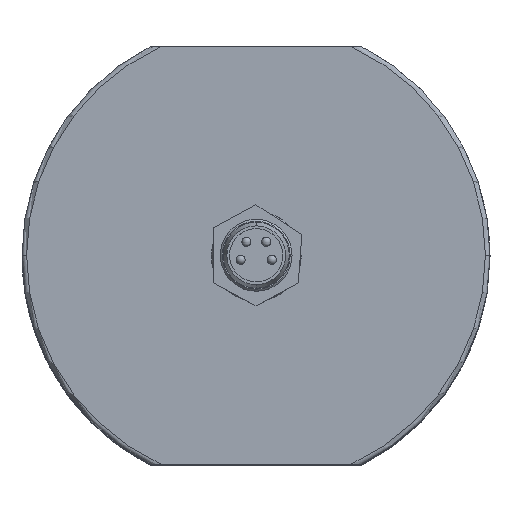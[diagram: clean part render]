
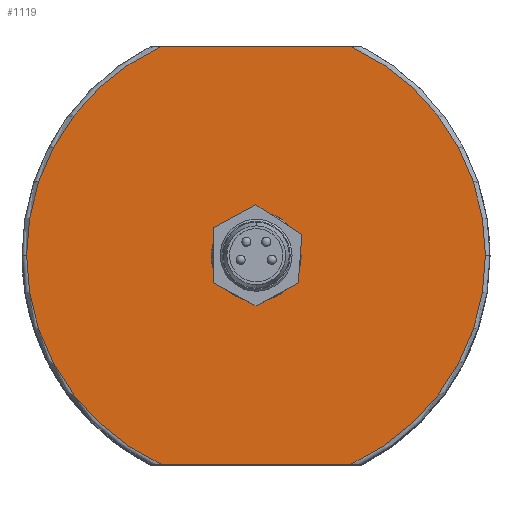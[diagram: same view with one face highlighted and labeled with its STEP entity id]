
A CAD part, top view. The second image highlights one B-rep face of the part: STEP entity #1119.
In plain terms, the highlighted planar face has unit normal (0, 0, 1).
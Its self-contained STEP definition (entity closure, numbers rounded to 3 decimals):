
#1119=ADVANCED_FACE('19:35640',(#2847,#2848),#2849,.T.);
#2847=FACE_OUTER_BOUND('',#5264,.T.);
#2848=FACE_BOUND('',#5265,.T.);
#2849=PLANE('',#5266);
#5264=EDGE_LOOP('',(#8791,#8792,#8793,#8794,#8795,#8796));
#5265=EDGE_LOOP('',(#8797,#8798));
#5266=AXIS2_PLACEMENT_3D('',#8799,#8800,#8801);
#8791=ORIENTED_EDGE('',*,*,#15499,.F.);
#8792=ORIENTED_EDGE('',*,*,#15500,.F.);
#8793=ORIENTED_EDGE('',*,*,#15501,.F.);
#8794=ORIENTED_EDGE('',*,*,#15272,.F.);
#8795=ORIENTED_EDGE('',*,*,#15502,.F.);
#8796=ORIENTED_EDGE('',*,*,#15265,.F.);
#8797=ORIENTED_EDGE('',*,*,#15503,.F.);
#8798=ORIENTED_EDGE('',*,*,#15504,.F.);
#8799=CARTESIAN_POINT('',(0.,-0.014,129.45));
#8800=DIRECTION('',(0.0,0.0,1.0));
#8801=DIRECTION('',(1.0,0.0,0.0));
#15265=EDGE_CURVE('19:37362',#18656,#18659,#18660,.T.);
#15272=EDGE_CURVE('19:37368',#18670,#18666,#18672,.T.);
#15499=EDGE_CURVE('19:37362',#19056,#18656,#19057,.T.);
#15500=EDGE_CURVE('19:37365',#19058,#19056,#19059,.T.);
#15501=EDGE_CURVE('19:37368',#18666,#19058,#19060,.T.);
#15502=EDGE_CURVE('19:37371',#18659,#18670,#19061,.T.);
#15503=EDGE_CURVE('19:37374',#19062,#19063,#19064,.T.);
#15504=EDGE_CURVE('19:37377',#19063,#19062,#19065,.T.);
#18656=VERTEX_POINT('',#24536);
#18659=VERTEX_POINT('',#24539);
#18660=CIRCLE('',#24540,25.0);
#18666=VERTEX_POINT('',#24564);
#18670=VERTEX_POINT('',#24568);
#18672=CIRCLE('',#24588,25.0);
#19056=VERTEX_POINT('',#25511);
#19057=CIRCLE('',#25512,25.0);
#19058=VERTEX_POINT('',#25513);
#19059=LINE('',#25514,#25515);
#19060=CIRCLE('',#25516,25.0);
#19061=LINE('',#25517,#25518);
#19062=VERTEX_POINT('',#25519);
#19063=VERTEX_POINT('',#25520);
#19064=CIRCLE('',#25521,4.495);
#19065=CIRCLE('',#25522,4.495);
#24536=CARTESIAN_POINT('',(-25.0,0.,129.45));
#24539=CARTESIAN_POINT('',(-10.398,22.735,129.45));
#24540=AXIS2_PLACEMENT_3D('',#31442,#31443,#31444);
#24564=CARTESIAN_POINT('',(25.0,0.,129.45));
#24568=CARTESIAN_POINT('',(10.398,22.735,129.45));
#24588=AXIS2_PLACEMENT_3D('',#31454,#31455,#31456);
#25511=CARTESIAN_POINT('',(-10.336,-22.763,129.45));
#25512=AXIS2_PLACEMENT_3D('',#31765,#31766,#31767);
#25513=CARTESIAN_POINT('',(10.336,-22.763,129.45));
#25514=CARTESIAN_POINT('',(0.,-22.763,129.45));
#25515=VECTOR('',#31768,1.0);
#25516=AXIS2_PLACEMENT_3D('',#31769,#31770,#31771);
#25517=CARTESIAN_POINT('',(0.,22.735,129.45));
#25518=VECTOR('',#31772,1.0);
#25519=CARTESIAN_POINT('',(0.195,4.387,129.45));
#25520=CARTESIAN_POINT('',(-0.153,-4.597,129.45));
#25521=AXIS2_PLACEMENT_3D('',#31773,#31774,#31775);
#25522=AXIS2_PLACEMENT_3D('',#31776,#31777,#31778);
#31442=CARTESIAN_POINT('',(0.0,0.0,129.45));
#31443=DIRECTION('',(-0.0,0.0,-1.0));
#31444=DIRECTION('',(-1.,-0.001,0.0));
#31454=CARTESIAN_POINT('',(0.0,0.0,129.45));
#31455=DIRECTION('',(0.0,0.0,-1.0));
#31456=DIRECTION('',(1.,-0.001,0.0));
#31765=CARTESIAN_POINT('',(0.0,0.0,129.45));
#31766=DIRECTION('',(-0.0,0.0,-1.0));
#31767=DIRECTION('',(-1.,-0.001,0.0));
#31768=DIRECTION('',(-1.0,0.0,0.0));
#31769=CARTESIAN_POINT('',(0.0,0.0,129.45));
#31770=DIRECTION('',(0.0,0.0,-1.0));
#31771=DIRECTION('',(1.,-0.001,0.0));
#31772=DIRECTION('',(1.0,0.0,0.0));
#31773=CARTESIAN_POINT('',(0.021,-0.105,129.45));
#31774=DIRECTION('',(0.,0.,1.0));
#31775=DIRECTION('',(-0.039,-0.999,0.));
#31776=CARTESIAN_POINT('',(0.021,-0.105,129.45));
#31777=DIRECTION('',(0.,0.,1.0));
#31778=DIRECTION('',(-0.039,-0.999,0.));
